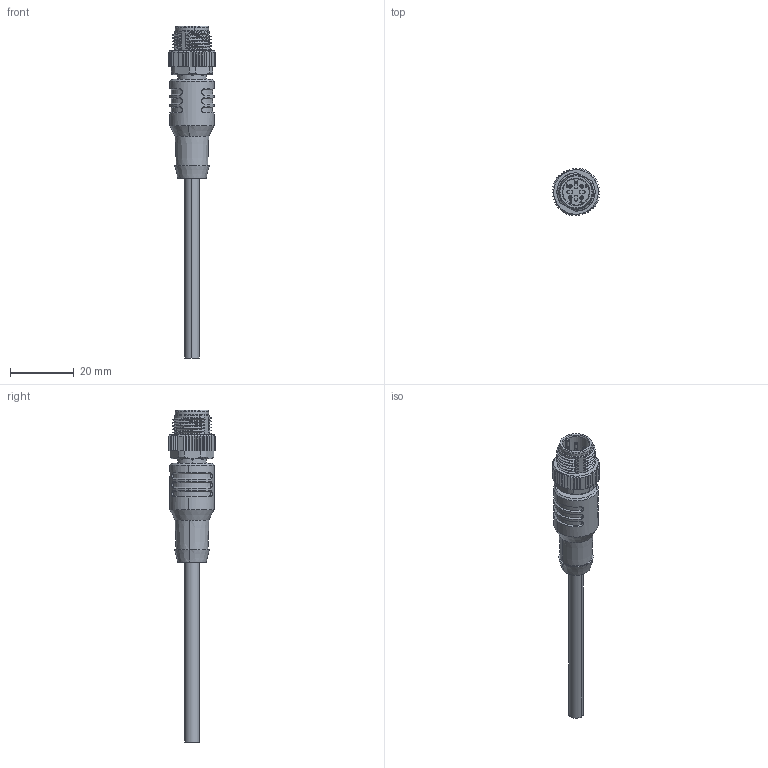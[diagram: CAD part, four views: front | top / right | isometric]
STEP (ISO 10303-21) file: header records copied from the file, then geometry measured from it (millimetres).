
FILE_DESCRIPTION (( 'STEP AP203' ), '1' );
FILE_NAME ('M12 4针 A 公直47.8 （小包胶体31 螺丝更新）.STEP', '2024-12-04T07:38:32', ( 'L' ), ( '' ), 'SwSTEP 2.0', 'SolidWorks 2019', '' );
FILE_SCHEMA (( 'CONFIG_CONTROL_DESIGN' ));
Length unit declared in the file: millimetre
Products named in the file (1): M12 4针 A 公直47.8 （小包胶体31 螺丝更新）
Bounding box: 14.99 x 15 x 104.37 mm (x, y, z)
Volume: 6072.8 mm3; surface area: 4573 mm2
Topology: 1 solids, 1 shells, 752 faces, 2152 edges, 1429 vertices
Faces by surface type: plane 362, cylinder 204, bspline 87, cone 73, torus 26
Entity records: 40019 total; most frequent: CARTESIAN_POINT 21837, ORIENTED_EDGE 4304, DIRECTION 3040, EDGE_CURVE 2152, VERTEX_POINT 1429, AXIS2_PLACEMENT_3D 1048, VECTOR 944, LINE 944
